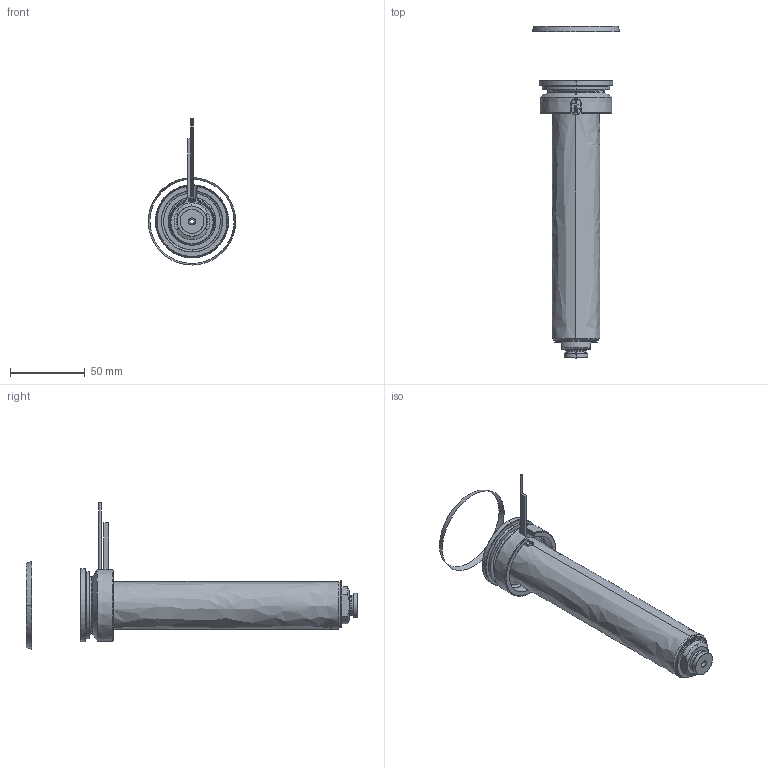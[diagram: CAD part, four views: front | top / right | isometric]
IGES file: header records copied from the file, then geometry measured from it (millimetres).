
Start section: SolidWorks IGES file using analytic representation for surfaces
Global section: file name: C:\Documents and Settings\ws-20\Desktop\TEMPORANEA\UGBE5004-S-A-5 [Ød-3.0 P-0 ØC-13].IGS; native system: SolidWorks 2012; preprocessor: SolidWorks 2012; author: ws-20; date: 120306.162622; units: millimetre
Bounding box: 58.57 x 222.44 x 97.91 mm (x, y, z)
Surface area: 67592.1 mm2 (no closed solid volume)
Topology: 0 solids, 0 shells, 110 faces, 2118 edges, 2118 vertices
Faces by surface type: revolution 67, bspline 43
